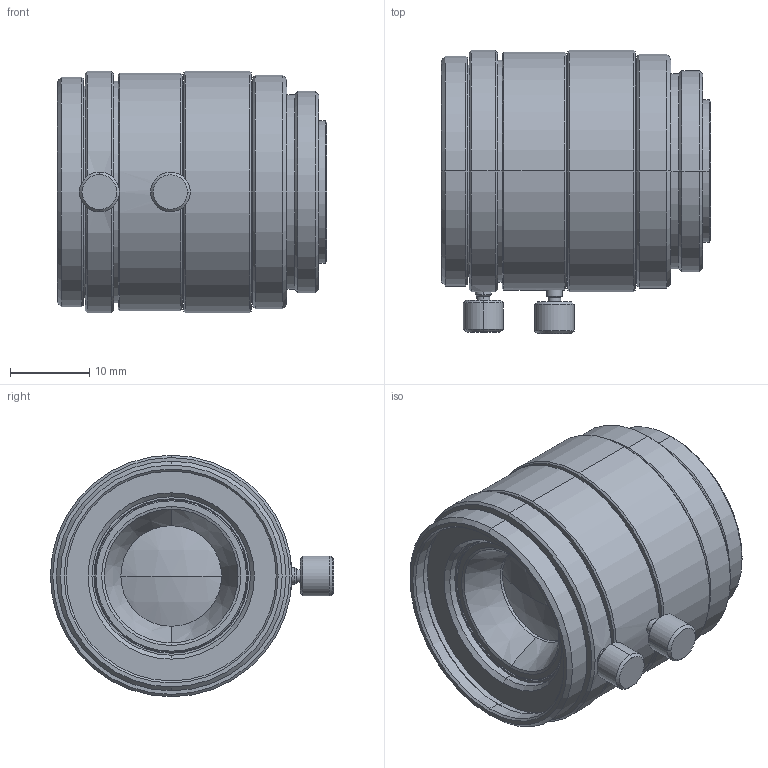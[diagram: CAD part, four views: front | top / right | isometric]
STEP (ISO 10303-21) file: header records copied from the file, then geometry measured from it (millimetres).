
FILE_DESCRIPTION (( 'STEP AP203' ), '1' );
FILE_NAME ('VS-LDA15.STEP', '2016-09-27T00:14:01', ( '' ), ( '' ), 'SwSTEP 2.0', 'SolidWorks 2016', '' );
FILE_SCHEMA (( 'CONFIG_CONTROL_DESIGN' ));
Length unit declared in the file: millimetre
Products named in the file (1): VS-LDA15
Bounding box: 33.99 x 35.75 x 30.5 mm (x, y, z)
Volume: 19046.7 mm3; surface area: 6735.8 mm2
Topology: 1 solids, 1 shells, 142 faces, 286 edges, 168 vertices
Faces by surface type: cone 68, cylinder 48, plane 22, sphere 4
Entity records: 3825 total; most frequent: DIRECTION 734, CARTESIAN_POINT 661, ORIENTED_EDGE 572, AXIS2_PLACEMENT_3D 309, EDGE_CURVE 286, VERTEX_POINT 168, CIRCLE 166, EDGE_LOOP 164
